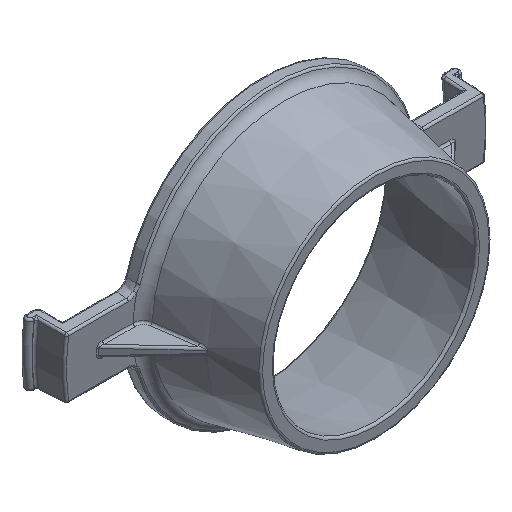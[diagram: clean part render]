
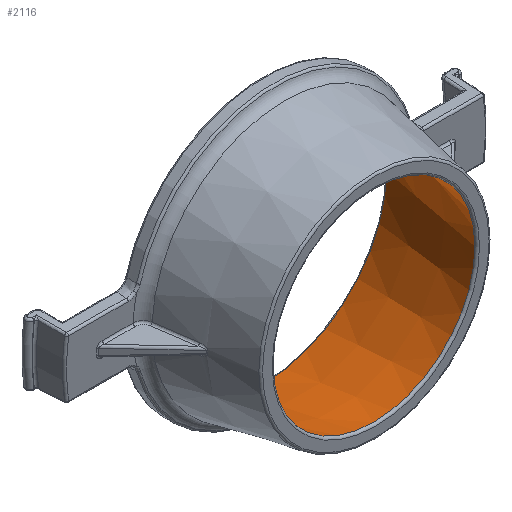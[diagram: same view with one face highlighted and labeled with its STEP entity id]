
A CAD part, isometric view. The second image highlights one B-rep face of the part: STEP entity #2116.
In plain terms, the highlighted conical face has half-angle 10.869 degrees and reference radius 5.326 mm.
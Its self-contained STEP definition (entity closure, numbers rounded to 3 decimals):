
#91=LINE('',#4836,#145);
#145=VECTOR('',#2738,5.326);
#192=CONICAL_SURFACE('',#2326,5.326,0.19);
#308=FACE_OUTER_BOUND('',#449,.T.);
#449=EDGE_LOOP('',(#1711,#1712,#1713,#1714,#1715,#1716));
#724=CIRCLE('',#2324,4.83);
#725=CIRCLE('',#2325,4.83);
#726=CIRCLE('',#2327,5.828);
#727=CIRCLE('',#2328,5.828);
#912=VERTEX_POINT('',#4827);
#913=VERTEX_POINT('',#4829);
#914=VERTEX_POINT('',#4833);
#915=VERTEX_POINT('',#4834);
#1198=EDGE_CURVE('',#912,#913,#724,.T.);
#1199=EDGE_CURVE('',#913,#912,#725,.T.);
#1200=EDGE_CURVE('',#914,#915,#726,.T.);
#1201=EDGE_CURVE('',#914,#913,#91,.T.);
#1202=EDGE_CURVE('',#915,#914,#727,.T.);
#1711=ORIENTED_EDGE('',*,*,#1200,.F.);
#1712=ORIENTED_EDGE('',*,*,#1201,.T.);
#1713=ORIENTED_EDGE('',*,*,#1198,.F.);
#1714=ORIENTED_EDGE('',*,*,#1199,.F.);
#1715=ORIENTED_EDGE('',*,*,#1201,.F.);
#1716=ORIENTED_EDGE('',*,*,#1202,.F.);
#2116=ADVANCED_FACE('',(#308),#192,.F.);
#2324=AXIS2_PLACEMENT_3D('',#4830,#2730,#2731);
#2325=AXIS2_PLACEMENT_3D('',#4831,#2732,#2733);
#2326=AXIS2_PLACEMENT_3D('',#4832,#2734,#2735);
#2327=AXIS2_PLACEMENT_3D('',#4835,#2736,#2737);
#2328=AXIS2_PLACEMENT_3D('',#4837,#2739,#2740);
#2730=DIRECTION('center_axis',(0.,1.,0.));
#2731=DIRECTION('ref_axis',(1.,0.,0.));
#2732=DIRECTION('center_axis',(0.,1.,0.));
#2733=DIRECTION('ref_axis',(1.,0.,0.));
#2734=DIRECTION('center_axis',(0.,1.,0.));
#2735=DIRECTION('ref_axis',(-1.,0.,0.));
#2736=DIRECTION('center_axis',(0.,-1.,0.));
#2737=DIRECTION('ref_axis',(1.,0.,0.));
#2738=DIRECTION('',(-0.189,-0.982,0.));
#2739=DIRECTION('center_axis',(0.,-1.,0.));
#2740=DIRECTION('ref_axis',(1.,0.,0.));
#4827=CARTESIAN_POINT('',(0.,0.119,-4.83));
#4829=CARTESIAN_POINT('',(4.83,0.119,0.));
#4830=CARTESIAN_POINT('Origin',(0.,0.119,0.));
#4831=CARTESIAN_POINT('Origin',(0.,0.119,0.));
#4832=CARTESIAN_POINT('Origin',(0.,2.7,0.));
#4833=CARTESIAN_POINT('',(5.828,5.319,0.));
#4834=CARTESIAN_POINT('',(0.,5.319,-5.828));
#4835=CARTESIAN_POINT('Origin',(0.,5.319,0.));
#4836=CARTESIAN_POINT('',(5.326,2.7,0.));
#4837=CARTESIAN_POINT('Origin',(0.,5.319,0.));
